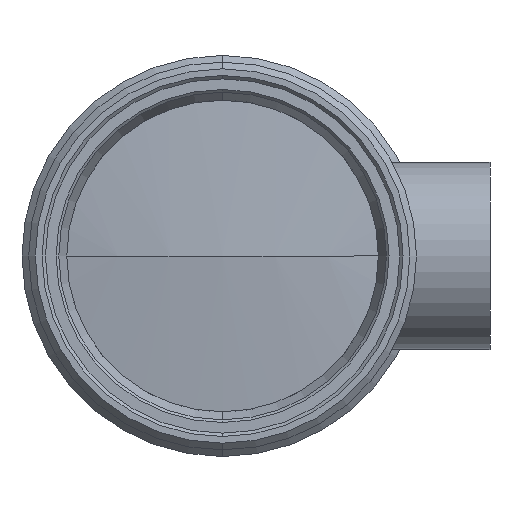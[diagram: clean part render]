
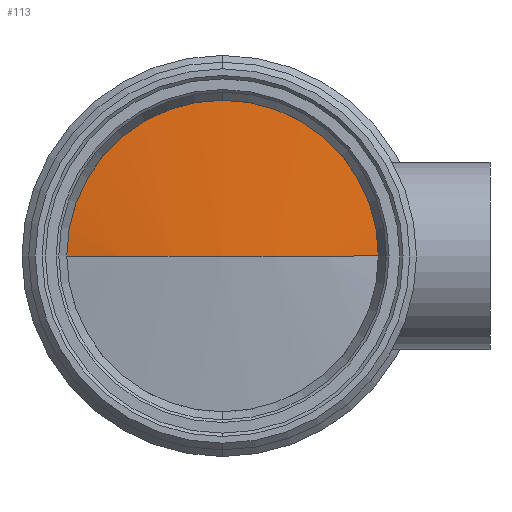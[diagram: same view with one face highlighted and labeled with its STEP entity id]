
A CAD part, left-side view. The second image highlights one B-rep face of the part: STEP entity #113.
In plain terms, the highlighted spherical face has radius 75.5 mm.
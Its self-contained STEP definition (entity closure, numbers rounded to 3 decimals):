
#43 = DIRECTION ( 'NONE',  ( 1., 0., 0. ) ) ;
#67 = CIRCLE ( 'NONE', #1349, 75.5 ) ;
#89 = VERTEX_POINT ( 'NONE', #474 ) ;
#113 = ADVANCED_FACE ( 'NONE', ( #145 ), #961, .T. ) ;
#145 = FACE_OUTER_BOUND ( 'NONE', #3194, .T. ) ;
#225 = ORIENTED_EDGE ( 'NONE', *, *, #1908, .F. ) ;
#301 = CARTESIAN_POINT ( 'NONE',  ( 80.037, 0., 0. ) ) ;
#328 = EDGE_CURVE ( 'NONE', #2196, #1743, #2279, .T. ) ;
#474 = CARTESIAN_POINT ( 'NONE',  ( 5.457, -11.75, 0. ) ) ;
#488 = CARTESIAN_POINT ( 'NONE',  ( 80.037, 0., 0. ) ) ;
#519 = CARTESIAN_POINT ( 'NONE',  ( 4.537, 0., 0. ) ) ;
#579 = DIRECTION ( 'NONE',  ( 0., -1., 0. ) ) ;
#661 = VERTEX_POINT ( 'NONE', #2857 ) ;
#662 = CARTESIAN_POINT ( 'NONE',  ( 5.457, 0., 0. ) ) ;
#702 = AXIS2_PLACEMENT_3D ( 'NONE', #488, #1034, #774 ) ;
#774 = DIRECTION ( 'NONE',  ( 0., 1., 0. ) ) ;
#932 = EDGE_CURVE ( 'NONE', #1743, #661, #941, .T. ) ;
#933 = DIRECTION ( 'NONE',  ( 0., 0., -1. ) ) ;
#941 = CIRCLE ( 'NONE', #2333, 11.75 ) ;
#961 = SPHERICAL_SURFACE ( 'NONE', #702, 75.5 ) ;
#1002 = ORIENTED_EDGE ( 'NONE', *, *, #2704, .T. ) ;
#1034 = DIRECTION ( 'NONE',  ( 0., 0., 1. ) ) ;
#1055 = DIRECTION ( 'NONE',  ( 0., 0., -1. ) ) ;
#1349 = AXIS2_PLACEMENT_3D ( 'NONE', #301, #2218, #579 ) ;
#1687 = CARTESIAN_POINT ( 'NONE',  ( 5.457, 0., 0. ) ) ;
#1743 = VERTEX_POINT ( 'NONE', #3021 ) ;
#1877 = DIRECTION ( 'NONE',  ( -1., 0., 0. ) ) ;
#1908 = EDGE_CURVE ( 'NONE', #661, #89, #2089, .T. ) ;
#1956 = DIRECTION ( 'NONE',  ( 0., 0., -1. ) ) ;
#2002 = ORIENTED_EDGE ( 'NONE', *, *, #328, .F. ) ;
#2089 = CIRCLE ( 'NONE', #2713, 11.75 ) ;
#2122 = ORIENTED_EDGE ( 'NONE', *, *, #932, .F. ) ;
#2196 = VERTEX_POINT ( 'NONE', #519 ) ;
#2218 = DIRECTION ( 'NONE',  ( 0., 0., 1. ) ) ;
#2279 = CIRCLE ( 'NONE', #3427, 75.5 ) ;
#2333 = AXIS2_PLACEMENT_3D ( 'NONE', #1687, #43, #1956 ) ;
#2515 = CARTESIAN_POINT ( 'NONE',  ( 80.037, 0., 0. ) ) ;
#2570 = DIRECTION ( 'NONE',  ( 1., 0., 0. ) ) ;
#2704 = EDGE_CURVE ( 'NONE', #2196, #89, #67, .T. ) ;
#2713 = AXIS2_PLACEMENT_3D ( 'NONE', #662, #2570, #933 ) ;
#2857 = CARTESIAN_POINT ( 'NONE',  ( 5.457, 0., 11.75 ) ) ;
#3021 = CARTESIAN_POINT ( 'NONE',  ( 5.457, 11.75, 0. ) ) ;
#3194 = EDGE_LOOP ( 'NONE', ( #2002, #1002, #225, #2122 ) ) ;
#3427 = AXIS2_PLACEMENT_3D ( 'NONE', #2515, #1055, #1877 ) ;
